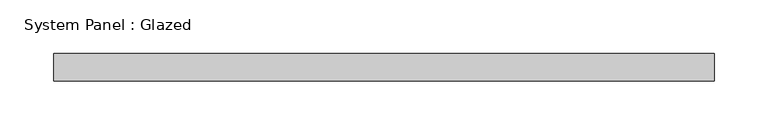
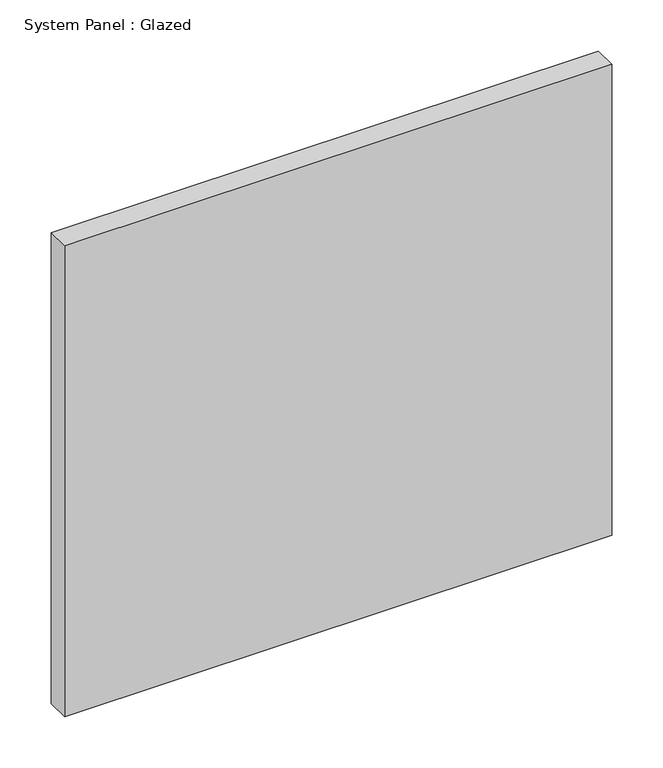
"""IFC4 building model written with IfcOpenShell, lengths in millimetres: plate geometry, System Panel : Glazed."""

from ifc_helpers import new_model, si_unit, origin, origin_with_axes, place, context, project, spatial, polyline, outline, extrude, source, transform, mapped, element, save


def system_panel_glazed_a1473ad5(model_context):
    return source(origin(), model_context, "Body", "SweptSolid", [
        extrude(outline(polyline([(306.9228478, -12.7), (-306.9228478, -12.7), (-306.9228478, 12.7), (306.9228478, 12.7), (306.9228478, -12.7)])), origin_with_axes(), (0.0, 0.0, 1.0), 558.8),
    ])


if __name__ == "__main__":
    model = new_model("IFC4")
    model_context = context("Model", 3, world=origin())
    ifc_project = project(units=[si_unit("LENGTHUNIT", "METRE", prefix="MILLI")], contexts=[model_context])
    site = spatial("IfcSite", under=ifc_project)
    building = spatial("IfcBuilding", under=site)
    placement = place(None, origin())
    system_panel_glazed_shape = system_panel_glazed_a1473ad5(model_context)
    element("IfcPlate", 1, ObjectType="System Panel : Glazed", at=placement, inside=building, context=model_context, shape_type="MappedRepresentation", body=[
        mapped(system_panel_glazed_shape, transform((0.0, 0.0, 0.0), x_axis=(1.0, 0.0, 0.0), y_axis=(0.0, 1.0, 0.0), z_axis=(0.0, 0.0, 1.0))),
    ])
    save(model, "model.ifc")
